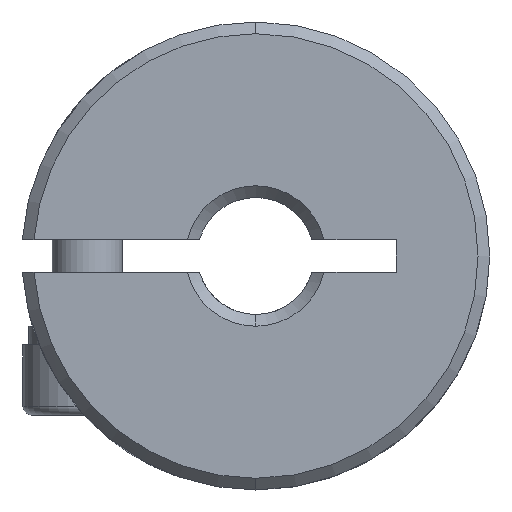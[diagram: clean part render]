
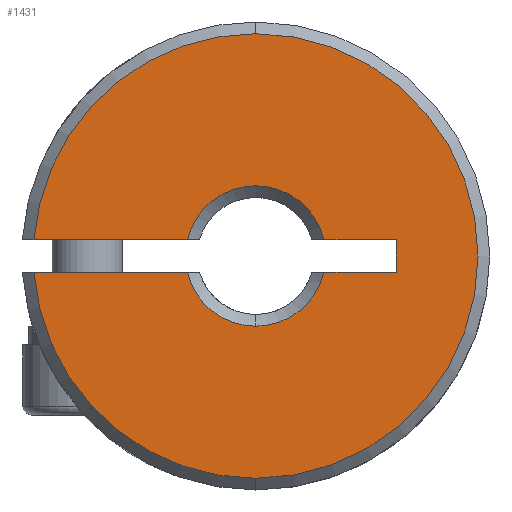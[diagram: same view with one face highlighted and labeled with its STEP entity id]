
A CAD part, front view. The second image highlights one B-rep face of the part: STEP entity #1431.
In plain terms, the highlighted planar face has unit normal (0, -1, 0).
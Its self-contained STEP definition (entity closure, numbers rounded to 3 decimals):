
#47 = EDGE_CURVE ( 'NONE', #1950, #794, #2235, .T. ) ;
#85 = AXIS2_PLACEMENT_3D ( 'NONE', #1658, #2517, #3341 ) ;
#104 = ORIENTED_EDGE ( 'NONE', *, *, #2562, .T. ) ;
#221 = ORIENTED_EDGE ( 'NONE', *, *, #2496, .T. ) ;
#289 = CIRCLE ( 'NONE', #2782, 3. ) ;
#328 = VECTOR ( 'NONE', #1022, 1000. ) ;
#355 = VERTEX_POINT ( 'NONE', #1087 ) ;
#358 = DIRECTION ( 'NONE',  ( 0., 1., 0. ) ) ;
#378 = ORIENTED_EDGE ( 'NONE', *, *, #857, .T. ) ;
#420 = FACE_OUTER_BOUND ( 'NONE', #1293, .T. ) ;
#455 = CARTESIAN_POINT ( 'NONE',  ( 0., 0.25, 0. ) ) ;
#496 = VERTEX_POINT ( 'NONE', #842 ) ;
#556 = LINE ( 'NONE', #1760, #1843 ) ;
#557 = ORIENTED_EDGE ( 'NONE', *, *, #2090, .T. ) ;
#625 = DIRECTION ( 'NONE',  ( 0., 0., 1. ) ) ;
#725 = CIRCLE ( 'NONE', #1466, 9.5 ) ;
#763 = CARTESIAN_POINT ( 'NONE',  ( 0., 0.25, 0. ) ) ;
#794 = VERTEX_POINT ( 'NONE', #2920 ) ;
#842 = CARTESIAN_POINT ( 'NONE',  ( 6., 0.25, -0.7 ) ) ;
#851 = CARTESIAN_POINT ( 'NONE',  ( 6., 0.25, -0.7 ) ) ;
#857 = EDGE_CURVE ( 'NONE', #2934, #2170, #3600, .T. ) ;
#937 = DIRECTION ( 'NONE',  ( 1., 0., 0. ) ) ;
#962 = VECTOR ( 'NONE', #2493, 1000. ) ;
#978 = EDGE_CURVE ( 'NONE', #2170, #1380, #2231, .T. ) ;
#1022 = DIRECTION ( 'NONE',  ( -1., 0., 0. ) ) ;
#1057 = CARTESIAN_POINT ( 'NONE',  ( 0., 0.25, 0. ) ) ;
#1087 = CARTESIAN_POINT ( 'NONE',  ( -2.917, 0.25, 0.7 ) ) ;
#1097 = VERTEX_POINT ( 'NONE', #2758 ) ;
#1149 = CIRCLE ( 'NONE', #1691, 3. ) ;
#1186 = VERTEX_POINT ( 'NONE', #3175 ) ;
#1197 = EDGE_CURVE ( 'NONE', #496, #1097, #556, .T. ) ;
#1211 = EDGE_CURVE ( 'NONE', #2047, #496, #2546, .T. ) ;
#1236 = CARTESIAN_POINT ( 'NONE',  ( 0., 0.25, 0. ) ) ;
#1293 = EDGE_LOOP ( 'NONE', ( #1974, #221, #378, #1566, #2316, #104, #3367, #3237, #1774, #557, #2817 ) ) ;
#1352 = VERTEX_POINT ( 'NONE', #3246 ) ;
#1380 = VERTEX_POINT ( 'NONE', #3277 ) ;
#1431 = ADVANCED_FACE ( 'NONE', ( #420 ), #1618, .F. ) ;
#1466 = AXIS2_PLACEMENT_3D ( 'NONE', #2893, #2330, #2385 ) ;
#1503 = DIRECTION ( 'NONE',  ( 0., 0., 1. ) ) ;
#1566 = ORIENTED_EDGE ( 'NONE', *, *, #978, .T. ) ;
#1579 = DIRECTION ( 'NONE',  ( 0., -1., 0. ) ) ;
#1602 = CARTESIAN_POINT ( 'NONE',  ( 6., 0.25, 0.7 ) ) ;
#1618 = PLANE ( 'NONE',  #2087 ) ;
#1658 = CARTESIAN_POINT ( 'NONE',  ( 0., 0.25, 0. ) ) ;
#1691 = AXIS2_PLACEMENT_3D ( 'NONE', #455, #2396, #2679 ) ;
#1760 = CARTESIAN_POINT ( 'NONE',  ( 6., 0.25, 0.7 ) ) ;
#1774 = ORIENTED_EDGE ( 'NONE', *, *, #1211, .F. ) ;
#1809 = CARTESIAN_POINT ( 'NONE',  ( 6., 0.25, 0.7 ) ) ;
#1843 = VECTOR ( 'NONE', #2571, 1000. ) ;
#1895 = CARTESIAN_POINT ( 'NONE',  ( -50., 0.25, 12. ) ) ;
#1950 = VERTEX_POINT ( 'NONE', #2240 ) ;
#1974 = ORIENTED_EDGE ( 'NONE', *, *, #47, .F. ) ;
#2044 = LINE ( 'NONE', #1809, #2800 ) ;
#2047 = VERTEX_POINT ( 'NONE', #2434 ) ;
#2085 = CARTESIAN_POINT ( 'NONE',  ( 0., 0.25, -9.5 ) ) ;
#2087 = AXIS2_PLACEMENT_3D ( 'NONE', #1895, #358, #625 ) ;
#2090 = EDGE_CURVE ( 'NONE', #2047, #1186, #2994, .T. ) ;
#2170 = VERTEX_POINT ( 'NONE', #2605 ) ;
#2228 = AXIS2_PLACEMENT_3D ( 'NONE', #1057, #3546, #2407 ) ;
#2231 = CIRCLE ( 'NONE', #2250, 9.5 ) ;
#2235 = LINE ( 'NONE', #851, #962 ) ;
#2240 = CARTESIAN_POINT ( 'NONE',  ( -9.474, 0.25, -0.7 ) ) ;
#2250 = AXIS2_PLACEMENT_3D ( 'NONE', #763, #1579, #3459 ) ;
#2288 = CARTESIAN_POINT ( 'NONE',  ( 6., 0.25, -0.7 ) ) ;
#2316 = ORIENTED_EDGE ( 'NONE', *, *, #2925, .F. ) ;
#2330 = DIRECTION ( 'NONE',  ( 0., -1., 0. ) ) ;
#2385 = DIRECTION ( 'NONE',  ( 0., 0., 1. ) ) ;
#2396 = DIRECTION ( 'NONE',  ( 0., 1., 0. ) ) ;
#2407 = DIRECTION ( 'NONE',  ( 0., 0., 1. ) ) ;
#2434 = CARTESIAN_POINT ( 'NONE',  ( 2.917, 0.25, -0.7 ) ) ;
#2493 = DIRECTION ( 'NONE',  ( 1., 0., 0. ) ) ;
#2496 = EDGE_CURVE ( 'NONE', #1950, #2934, #725, .T. ) ;
#2517 = DIRECTION ( 'NONE',  ( 0., 1., 0. ) ) ;
#2546 = LINE ( 'NONE', #2288, #2992 ) ;
#2554 = EDGE_CURVE ( 'NONE', #1097, #1352, #3594, .T. ) ;
#2562 = EDGE_CURVE ( 'NONE', #355, #1352, #1149, .T. ) ;
#2571 = DIRECTION ( 'NONE',  ( 0., 0., 1. ) ) ;
#2605 = CARTESIAN_POINT ( 'NONE',  ( 0., 0.25, 9.5 ) ) ;
#2667 = DIRECTION ( 'NONE',  ( -1., 0., 0. ) ) ;
#2679 = DIRECTION ( 'NONE',  ( 0., 0., 1. ) ) ;
#2758 = CARTESIAN_POINT ( 'NONE',  ( 6., 0.25, 0.7 ) ) ;
#2782 = AXIS2_PLACEMENT_3D ( 'NONE', #1236, #3191, #1503 ) ;
#2800 = VECTOR ( 'NONE', #2667, 1000. ) ;
#2817 = ORIENTED_EDGE ( 'NONE', *, *, #2827, .T. ) ;
#2827 = EDGE_CURVE ( 'NONE', #1186, #794, #289, .T. ) ;
#2893 = CARTESIAN_POINT ( 'NONE',  ( 0., 0.25, 0. ) ) ;
#2920 = CARTESIAN_POINT ( 'NONE',  ( -2.917, 0.25, -0.7 ) ) ;
#2925 = EDGE_CURVE ( 'NONE', #355, #1380, #2044, .T. ) ;
#2934 = VERTEX_POINT ( 'NONE', #2085 ) ;
#2992 = VECTOR ( 'NONE', #937, 1000. ) ;
#2994 = CIRCLE ( 'NONE', #85, 3. ) ;
#3175 = CARTESIAN_POINT ( 'NONE',  ( 0., 0.25, -3. ) ) ;
#3191 = DIRECTION ( 'NONE',  ( 0., 1., 0. ) ) ;
#3237 = ORIENTED_EDGE ( 'NONE', *, *, #1197, .F. ) ;
#3246 = CARTESIAN_POINT ( 'NONE',  ( 2.917, 0.25, 0.7 ) ) ;
#3277 = CARTESIAN_POINT ( 'NONE',  ( -9.474, 0.25, 0.7 ) ) ;
#3341 = DIRECTION ( 'NONE',  ( 0., 0., 1. ) ) ;
#3367 = ORIENTED_EDGE ( 'NONE', *, *, #2554, .F. ) ;
#3459 = DIRECTION ( 'NONE',  ( 0., 0., 1. ) ) ;
#3546 = DIRECTION ( 'NONE',  ( 0., -1., 0. ) ) ;
#3594 = LINE ( 'NONE', #1602, #328 ) ;
#3600 = CIRCLE ( 'NONE', #2228, 9.5 ) ;
